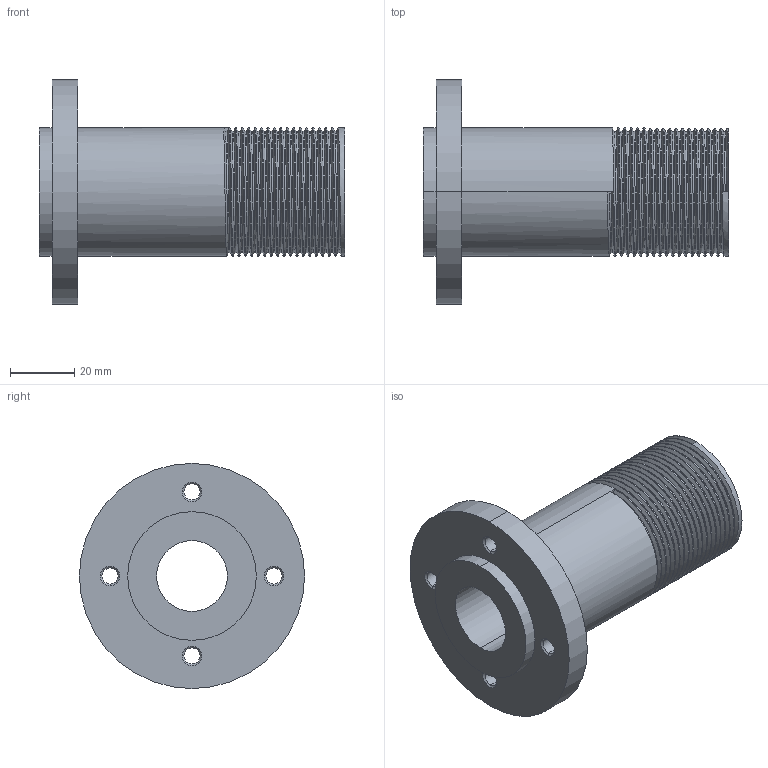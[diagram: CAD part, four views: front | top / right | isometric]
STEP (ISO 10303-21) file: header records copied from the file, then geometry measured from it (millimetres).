
FILE_DESCRIPTION (( 'STEP AP203' ), '1' );
FILE_NAME ('OFM2510-3-T.STEP', '2024-12-20T00:53:45', ( 'Admin' ), ( '' ), 'SwSTEP 2.0', 'SolidWorks 2019', '' );
FILE_SCHEMA (( 'CONFIG_CONTROL_DESIGN' ));
Length unit declared in the file: millimetre
Products named in the file (1): OFM2510-3-T
Bounding box: 95 x 70 x 70 mm (x, y, z)
Volume: 100318.8 mm3; surface area: 29146.9 mm2
Topology: 1 solids, 1 shells, 122 faces, 341 edges, 223 vertices
Faces by surface type: cylinder 65, bspline 39, plane 10, cone 8
Entity records: 33393 total; most frequent: CARTESIAN_POINT 30820, ORIENTED_EDGE 682, DIRECTION 352, EDGE_CURVE 341, VERTEX_POINT 223, EDGE_LOOP 134, AXIS2_PLACEMENT_3D 125, FACE_OUTER_BOUND 122
